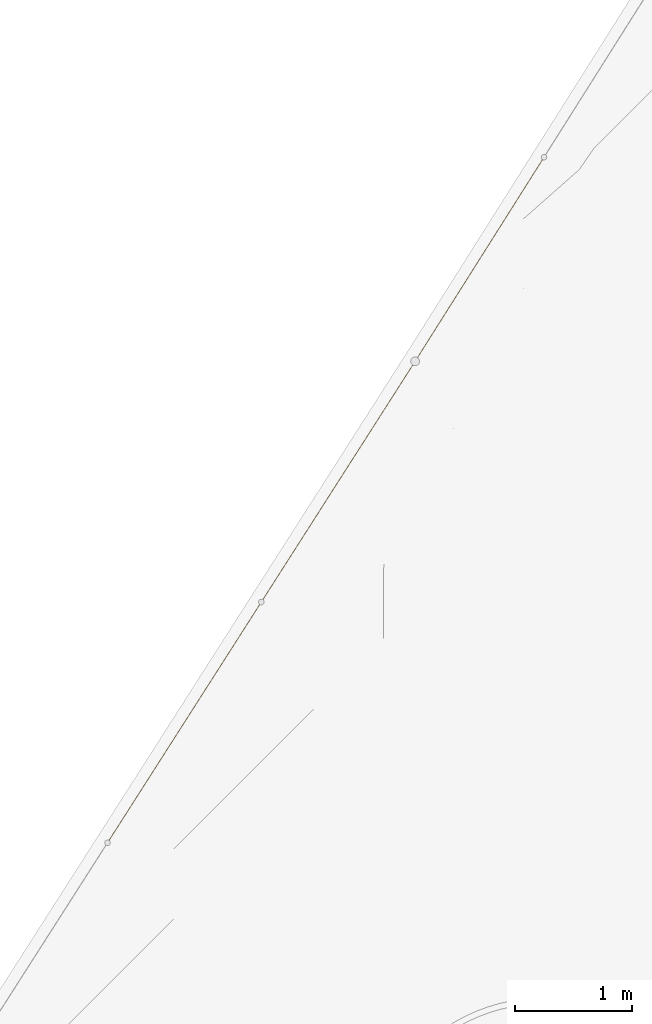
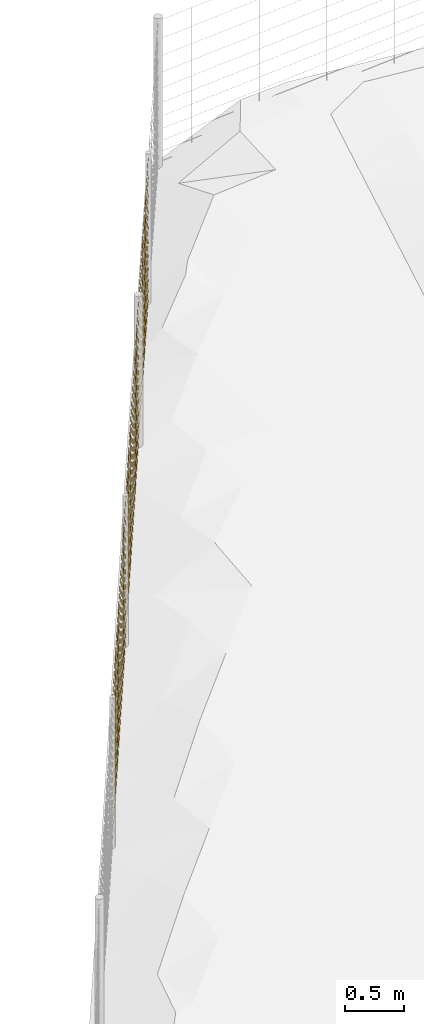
# Not in any storey, part 31 of 72: 3 railings.
"""IFC4 model written with IfcOpenShell, lengths in metres."""

from ifc_helpers import new_model, si_unit, direction, frame, origin_with_axes, place, context, subcontext, project, spatial, polygons, material, element, save


model = new_model("IFC4")

# Units and contexts
model_context = context("Model", 3, precision=1e-05, world=origin_with_axes(), true_north=direction((0.0, 1.0)))
body_context = subcontext(model_context, "Body", "Model", "MODEL_VIEW")
ifc_project = project(units=[si_unit("AREAUNIT", "SQUARE_METRE"), si_unit("VOLUMEUNIT", "CUBIC_METRE"), si_unit("LENGTHUNIT", "METRE")], contexts=[model_context])

# Site
site_placement = place(None, origin_with_axes())
site = spatial("IfcSite", under=ifc_project, at=site_placement, Name="Lares · Rua das Mercês · artigo 4771")

# Railings
ifc_material = material(Name="Aço galvanizado / Stahl verzinkt", Category="steel")
railing_1_placement = place(site_placement, frame((0.0, 0.0, 0.0), z_axis=(0.0, 0.0, 1.0), x_axis=(1.0, -1.03767253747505e-17, 0.0)))
element("IfcRailing", 1, at=railing_1_placement, inside=site, material=ifc_material, Name="Vedação · rede ovelheira 1.047", ObjectType="SHEEP_WIRE_FENCE", PredefinedType="USERDEFINED", context=body_context, shape_type="Tessellation", body=[
    polygons([(-4.26947059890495, 16.8943989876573, 12.0163853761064), (-4.27061633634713, 16.8953917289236, 12.0149015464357), (-4.27199861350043, 16.8960142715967, 12.0163853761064), (-4.27085287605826, 16.8950215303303, 12.0178692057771), (-2.95214813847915, 18.9560863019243, 12.3785673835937), (-2.95329387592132, 18.9570790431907, 12.377083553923), (-2.95467615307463, 18.9577015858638, 12.3785673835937), (-2.95353041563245, 18.9567088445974, 12.3800512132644), (-4.26947059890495, 16.8943989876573, 12.1163853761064), (-4.27061633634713, 16.8953917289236, 12.1149015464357), (-4.27199861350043, 16.8960142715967, 12.1163853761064), (-4.27085287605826, 16.8950215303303, 12.1178692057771), (-2.95214813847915, 18.9560863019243, 12.4785673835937), (-2.95329387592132, 18.9570790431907, 12.477083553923), (-2.95467615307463, 18.9577015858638, 12.4785673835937), (-2.95353041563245, 18.9567088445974, 12.4800512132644), (-4.26947059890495, 16.8943989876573, 12.2263853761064), (-4.27061633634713, 16.8953917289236, 12.2249015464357), (-4.27199861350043, 16.8960142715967, 12.2263853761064), (-4.27085287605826, 16.8950215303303, 12.2278692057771), (-2.95214813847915, 18.9560863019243, 12.5885673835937), (-2.95329387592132, 18.9570790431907, 12.587083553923), (-2.95467615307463, 18.9577015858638, 12.5885673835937), (-2.95353041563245, 18.9567088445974, 12.5900512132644), (-4.26947059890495, 16.8943989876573, 12.3463853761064), (-4.27061633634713, 16.8953917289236, 12.3449015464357), (-4.27199861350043, 16.8960142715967, 12.3463853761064), (-4.27085287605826, 16.8950215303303, 12.3478692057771), (-2.95214813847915, 18.9560863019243, 12.7085673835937), (-2.95329387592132, 18.9570790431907, 12.707083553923), (-2.95467615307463, 18.9577015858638, 12.7085673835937), (-2.95353041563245, 18.9567088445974, 12.7100512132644), (-4.26947059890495, 16.8943989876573, 12.4763853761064), (-4.27061633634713, 16.8953917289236, 12.4749015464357), (-4.27199861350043, 16.8960142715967, 12.4763853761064), (-4.27085287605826, 16.8950215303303, 12.4778692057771), (-2.95214813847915, 18.9560863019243, 12.8385673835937), (-2.95329387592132, 18.9570790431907, 12.837083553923), (-2.95467615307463, 18.9577015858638, 12.8385673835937), (-2.95353041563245, 18.9567088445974, 12.8400512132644), (-4.26947059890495, 16.8943989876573, 12.6163853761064), (-4.27061633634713, 16.8953917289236, 12.6149015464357), (-4.27199861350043, 16.8960142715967, 12.6163853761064), (-4.27085287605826, 16.8950215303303, 12.6178692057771), (-2.95214813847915, 18.9560863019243, 12.9785673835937), (-2.95329387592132, 18.9570790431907, 12.977083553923), (-2.95467615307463, 18.9577015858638, 12.9785673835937), (-2.95353041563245, 18.9567088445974, 12.9800512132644), (-4.26947059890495, 16.8943989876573, 12.7663853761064), (-4.27061633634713, 16.8953917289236, 12.7649015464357), (-4.27199861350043, 16.8960142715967, 12.7663853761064), (-4.27085287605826, 16.8950215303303, 12.7678692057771), (-2.95214813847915, 18.9560863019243, 13.1285673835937), (-2.95329387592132, 18.9570790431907, 13.127083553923), (-2.95467615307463, 18.9577015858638, 13.1285673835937), (-2.95353041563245, 18.9567088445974, 13.1300512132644), (-4.26947059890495, 16.8943989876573, 12.9263853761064), (-4.27061633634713, 16.8953917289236, 12.9249015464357), (-4.27199861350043, 16.8960142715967, 12.9263853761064), (-4.27085287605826, 16.8950215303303, 12.9278692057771), (-2.95214813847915, 18.9560863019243, 13.2885673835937), (-2.95329387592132, 18.9570790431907, 13.287083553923), (-2.95467615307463, 18.9577015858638, 13.2885673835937), (-2.95353041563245, 18.9567088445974, 13.2900512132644), (-4.26947059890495, 16.8943989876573, 13.0963853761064), (-4.27061633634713, 16.8953917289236, 13.0949015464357), (-4.27199861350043, 16.8960142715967, 13.0963853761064), (-4.27085287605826, 16.8950215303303, 13.0978692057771), (-2.95214813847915, 18.9560863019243, 13.4585673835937), (-2.95329387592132, 18.9570790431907, 13.457083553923), (-2.95467615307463, 18.9577015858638, 13.4585673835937), (-2.95353041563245, 18.9567088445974, 13.4600512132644), (-4.26947059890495, 16.8943989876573, 13.2763853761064), (-4.27061633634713, 16.8953917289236, 13.2749015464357), (-4.27199861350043, 16.8960142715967, 13.2763853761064), (-4.27085287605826, 16.8950215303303, 13.2778692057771), (-2.95214813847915, 18.9560863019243, 13.6385673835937), (-2.95329387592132, 18.9570790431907, 13.637083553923), (-2.95467615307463, 18.9577015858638, 13.6385673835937), (-2.95353041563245, 18.9567088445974, 13.6400512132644), (-4.26947059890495, 16.8943989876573, 13.4663853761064), (-4.27061633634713, 16.8953917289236, 13.4649015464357), (-4.27199861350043, 16.8960142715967, 13.4663853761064), (-4.27085287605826, 16.8950215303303, 13.4678692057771), (-2.95214813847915, 18.9560863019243, 13.8285673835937), (-2.95329387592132, 18.9570790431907, 13.827083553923), (-2.95467615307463, 18.9577015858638, 13.8285673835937), (-2.95353041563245, 18.9567088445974, 13.8300512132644), (-4.10920621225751, 17.1495080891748, 12.0607956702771), (-4.11070621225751, 17.1480080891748, 12.0607956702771), (-4.10920621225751, 17.1465080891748, 12.0607956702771), (-4.10770621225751, 17.1480080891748, 12.0607956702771), (-4.10920621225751, 17.1495080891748, 13.5107956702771), (-4.11070621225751, 17.1480080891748, 13.5107956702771), (-4.10920621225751, 17.1465080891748, 13.5107956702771), (-4.10770621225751, 17.1480080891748, 13.5107956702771), (-3.94767781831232, 17.4023095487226, 12.1052059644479), (-3.94917781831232, 17.4008095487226, 12.1052059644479), (-3.94767781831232, 17.3993095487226, 12.1052059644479), (-3.94617781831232, 17.4008095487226, 12.1052059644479), (-3.94767781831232, 17.4023095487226, 13.5552059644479), (-3.94917781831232, 17.4008095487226, 13.5552059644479), (-3.94767781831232, 17.3993095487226, 13.5552059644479), (-3.94617781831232, 17.4008095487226, 13.5552059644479), (-3.78614942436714, 17.6551110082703, 12.1496162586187), (-3.78764942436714, 17.6536110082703, 12.1496162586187), (-3.78614942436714, 17.6521110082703, 12.1496162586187), (-3.78464942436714, 17.6536110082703, 12.1496162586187), (-3.78614942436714, 17.6551110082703, 13.5996162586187), (-3.78764942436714, 17.6536110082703, 13.5996162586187), (-3.78614942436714, 17.6521110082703, 13.5996162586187), (-3.78464942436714, 17.6536110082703, 13.5996162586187), (-3.62462103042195, 17.9079124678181, 12.1940265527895), (-3.62612103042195, 17.9064124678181, 12.1940265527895), (-3.62462103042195, 17.9049124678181, 12.1940265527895), (-3.62312103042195, 17.9064124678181, 12.1940265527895), (-3.62462103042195, 17.9079124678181, 13.6440265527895), (-3.62612103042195, 17.9064124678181, 13.6440265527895), (-3.62462103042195, 17.9049124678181, 13.6440265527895), (-3.62312103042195, 17.9064124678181, 13.6440265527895), (-3.46309263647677, 18.1607139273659, 12.2384368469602), (-3.46459263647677, 18.1592139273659, 12.2384368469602), (-3.46309263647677, 18.1577139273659, 12.2384368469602), (-3.46159263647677, 18.1592139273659, 12.2384368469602), (-3.46309263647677, 18.1607139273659, 13.6884368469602), (-3.46459263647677, 18.1592139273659, 13.6884368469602), (-3.46309263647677, 18.1577139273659, 13.6884368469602), (-3.46159263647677, 18.1592139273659, 13.6884368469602), (-3.30156424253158, 18.4135153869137, 12.282847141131), (-3.30306424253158, 18.4120153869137, 12.282847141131), (-3.30156424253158, 18.4105153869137, 12.282847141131), (-3.30006424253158, 18.4120153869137, 12.282847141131), (-3.30156424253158, 18.4135153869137, 13.732847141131), (-3.30306424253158, 18.4120153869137, 13.732847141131), (-3.30156424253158, 18.4105153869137, 13.732847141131), (-3.30006424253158, 18.4120153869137, 13.732847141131), (-3.1400358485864, 18.6663168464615, 12.3272574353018), (-3.1415358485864, 18.6648168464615, 12.3272574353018), (-3.1400358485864, 18.6633168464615, 12.3272574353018), (-3.1385358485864, 18.6648168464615, 12.3272574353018), (-3.1400358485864, 18.6663168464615, 13.7772574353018), (-3.1415358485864, 18.6648168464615, 13.7772574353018), (-3.1400358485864, 18.6633168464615, 13.7772574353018), (-3.1385358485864, 18.6648168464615, 13.7772574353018)], [[[4, 3, 2, 1]], [[5, 6, 7, 8]], [[1, 2, 6, 5]], [[2, 3, 7, 6]], [[3, 4, 8, 7]], [[4, 1, 5, 8]], [[12, 11, 10, 9]], [[13, 14, 15, 16]], [[9, 10, 14, 13]], [[10, 11, 15, 14]], [[11, 12, 16, 15]], [[12, 9, 13, 16]], [[20, 19, 18, 17]], [[21, 22, 23, 24]], [[17, 18, 22, 21]], [[18, 19, 23, 22]], [[19, 20, 24, 23]], [[20, 17, 21, 24]], [[28, 27, 26, 25]], [[29, 30, 31, 32]], [[25, 26, 30, 29]], [[26, 27, 31, 30]], [[27, 28, 32, 31]], [[28, 25, 29, 32]], [[36, 35, 34, 33]], [[37, 38, 39, 40]], [[33, 34, 38, 37]], [[34, 35, 39, 38]], [[35, 36, 40, 39]], [[36, 33, 37, 40]], [[44, 43, 42, 41]], [[45, 46, 47, 48]], [[41, 42, 46, 45]], [[42, 43, 47, 46]], [[43, 44, 48, 47]], [[44, 41, 45, 48]], [[52, 51, 50, 49]], [[53, 54, 55, 56]], [[49, 50, 54, 53]], [[50, 51, 55, 54]], [[51, 52, 56, 55]], [[52, 49, 53, 56]], [[60, 59, 58, 57]], [[61, 62, 63, 64]], [[57, 58, 62, 61]], [[58, 59, 63, 62]], [[59, 60, 64, 63]], [[60, 57, 61, 64]], [[68, 67, 66, 65]], [[69, 70, 71, 72]], [[65, 66, 70, 69]], [[66, 67, 71, 70]], [[67, 68, 72, 71]], [[68, 65, 69, 72]], [[76, 75, 74, 73]], [[77, 78, 79, 80]], [[73, 74, 78, 77]], [[74, 75, 79, 78]], [[75, 76, 80, 79]], [[76, 73, 77, 80]], [[84, 83, 82, 81]], [[85, 86, 87, 88]], [[81, 82, 86, 85]], [[82, 83, 87, 86]], [[83, 84, 88, 87]], [[84, 81, 85, 88]], [[92, 91, 90, 89]], [[93, 94, 95, 96]], [[89, 90, 94, 93]], [[90, 91, 95, 94]], [[91, 92, 96, 95]], [[92, 89, 93, 96]], [[100, 99, 98, 97]], [[101, 102, 103, 104]], [[97, 98, 102, 101]], [[98, 99, 103, 102]], [[99, 100, 104, 103]], [[100, 97, 101, 104]], [[108, 107, 106, 105]], [[109, 110, 111, 112]], [[105, 106, 110, 109]], [[106, 107, 111, 110]], [[107, 108, 112, 111]], [[108, 105, 109, 112]], [[116, 115, 114, 113]], [[117, 118, 119, 120]], [[113, 114, 118, 117]], [[114, 115, 119, 118]], [[115, 116, 120, 119]], [[116, 113, 117, 120]], [[124, 123, 122, 121]], [[125, 126, 127, 128]], [[121, 122, 126, 125]], [[122, 123, 127, 126]], [[123, 124, 128, 127]], [[124, 121, 125, 128]], [[132, 131, 130, 129]], [[133, 134, 135, 136]], [[129, 130, 134, 133]], [[130, 131, 135, 134]], [[131, 132, 136, 135]], [[132, 129, 133, 136]], [[140, 139, 138, 137]], [[141, 142, 143, 144]], [[137, 138, 142, 141]], [[138, 139, 143, 142]], [[139, 140, 144, 143]], [[140, 137, 141, 144]]]),
])
railing_2_placement = place(site_placement, frame((0.0, 0.0, 0.0), z_axis=(0.0, 0.0, 1.0), x_axis=(1.0, -1.03767253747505e-17, 0.0)))
element("IfcRailing", 2, at=railing_2_placement, inside=site, material=ifc_material, Name="Vedação · rede ovelheira 1.048", ObjectType="SHEEP_WIRE_FENCE", PredefinedType="USERDEFINED", context=body_context, shape_type="Tessellation", body=[
    polygons([(-2.95214813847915, 18.9560863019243, 12.3785673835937), (-2.95329871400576, 18.9570714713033, 12.3770822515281), (-2.95467615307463, 18.9577015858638, 12.3785673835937), (-2.95352557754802, 18.9567164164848, 12.3800525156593), (-1.63482567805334, 21.0177736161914, 12.725628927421), (-1.63597625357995, 21.0187587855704, 12.7241437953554), (-1.63735369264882, 21.0193889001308, 12.725628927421), (-1.63620311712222, 21.0184037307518, 12.7271140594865), (-2.95214813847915, 18.9560863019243, 12.4785673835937), (-2.95329871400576, 18.9570714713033, 12.4770822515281), (-2.95467615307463, 18.9577015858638, 12.4785673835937), (-2.95352557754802, 18.9567164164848, 12.4800525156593), (-1.63482567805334, 21.0177736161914, 12.825628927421), (-1.63597625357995, 21.0187587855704, 12.8241437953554), (-1.63735369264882, 21.0193889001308, 12.825628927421), (-1.63620311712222, 21.0184037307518, 12.8271140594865), (-2.95214813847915, 18.9560863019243, 12.5885673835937), (-2.95329871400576, 18.9570714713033, 12.5870822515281), (-2.95467615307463, 18.9577015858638, 12.5885673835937), (-2.95352557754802, 18.9567164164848, 12.5900525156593), (-1.63482567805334, 21.0177736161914, 12.935628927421), (-1.63597625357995, 21.0187587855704, 12.9341437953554), (-1.63735369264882, 21.0193889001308, 12.935628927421), (-1.63620311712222, 21.0184037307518, 12.9371140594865), (-2.95214813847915, 18.9560863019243, 12.7085673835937), (-2.95329871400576, 18.9570714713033, 12.7070822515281), (-2.95467615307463, 18.9577015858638, 12.7085673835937), (-2.95352557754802, 18.9567164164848, 12.7100525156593), (-1.63482567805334, 21.0177736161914, 13.055628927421), (-1.63597625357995, 21.0187587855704, 13.0541437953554), (-1.63735369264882, 21.0193889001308, 13.055628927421), (-1.63620311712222, 21.0184037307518, 13.0571140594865), (-2.95214813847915, 18.9560863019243, 12.8385673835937), (-2.95329871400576, 18.9570714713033, 12.8370822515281), (-2.95467615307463, 18.9577015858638, 12.8385673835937), (-2.95352557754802, 18.9567164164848, 12.8400525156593), (-1.63482567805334, 21.0177736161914, 13.185628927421), (-1.63597625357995, 21.0187587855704, 13.1841437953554), (-1.63735369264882, 21.0193889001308, 13.185628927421), (-1.63620311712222, 21.0184037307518, 13.1871140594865), (-2.95214813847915, 18.9560863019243, 12.9785673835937), (-2.95329871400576, 18.9570714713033, 12.9770822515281), (-2.95467615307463, 18.9577015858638, 12.9785673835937), (-2.95352557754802, 18.9567164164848, 12.9800525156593), (-1.63482567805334, 21.0177736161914, 13.325628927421), (-1.63597625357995, 21.0187587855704, 13.3241437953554), (-1.63735369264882, 21.0193889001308, 13.325628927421), (-1.63620311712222, 21.0184037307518, 13.3271140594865), (-2.95214813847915, 18.9560863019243, 13.1285673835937), (-2.95329871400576, 18.9570714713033, 13.1270822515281), (-2.95467615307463, 18.9577015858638, 13.1285673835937), (-2.95352557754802, 18.9567164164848, 13.1300525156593), (-1.63482567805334, 21.0177736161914, 13.475628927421), (-1.63597625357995, 21.0187587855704, 13.4741437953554), (-1.63735369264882, 21.0193889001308, 13.475628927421), (-1.63620311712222, 21.0184037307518, 13.4771140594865), (-2.95214813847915, 18.9560863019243, 13.2885673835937), (-2.95329871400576, 18.9570714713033, 13.2870822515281), (-2.95467615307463, 18.9577015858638, 13.2885673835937), (-2.95352557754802, 18.9567164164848, 13.2900525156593), (-1.63482567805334, 21.0177736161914, 13.635628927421), (-1.63597625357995, 21.0187587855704, 13.6341437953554), (-1.63735369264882, 21.0193889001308, 13.635628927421), (-1.63620311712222, 21.0184037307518, 13.6371140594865), (-2.95214813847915, 18.9560863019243, 13.4585673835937), (-2.95329871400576, 18.9570714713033, 13.4570822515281), (-2.95467615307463, 18.9577015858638, 13.4585673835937), (-2.95352557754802, 18.9567164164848, 13.4600525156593), (-1.63482567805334, 21.0177736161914, 13.805628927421), (-1.63597625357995, 21.0187587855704, 13.8041437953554), (-1.63735369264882, 21.0193889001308, 13.805628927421), (-1.63620311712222, 21.0184037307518, 13.8071140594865), (-2.95214813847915, 18.9560863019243, 13.6385673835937), (-2.95329871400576, 18.9570714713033, 13.6370822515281), (-2.95467615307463, 18.9577015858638, 13.6385673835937), (-2.95352557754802, 18.9567164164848, 13.6400525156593), (-1.63482567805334, 21.0177736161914, 13.985628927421), (-1.63597625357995, 21.0187587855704, 13.9841437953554), (-1.63735369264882, 21.0193889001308, 13.985628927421), (-1.63620311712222, 21.0184037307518, 13.9871140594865), (-2.95214813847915, 18.9560863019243, 13.8285673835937), (-2.95329871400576, 18.9570714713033, 13.8270822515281), (-2.95467615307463, 18.9577015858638, 13.8285673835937), (-2.95352557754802, 18.9567164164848, 13.8300525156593), (-1.63482567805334, 21.0177736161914, 14.175628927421), (-1.63597625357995, 21.0187587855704, 14.1741437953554), (-1.63735369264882, 21.0193889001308, 14.175628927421), (-1.63620311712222, 21.0184037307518, 14.1771140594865), (-2.7918837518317, 19.2111954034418, 12.4211236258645), (-2.7933837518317, 19.2096954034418, 12.4211236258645), (-2.7918837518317, 19.2081954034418, 12.4211236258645), (-2.7903837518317, 19.2096954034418, 12.4211236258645), (-2.7918837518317, 19.2111954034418, 13.8711236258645), (-2.7933837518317, 19.2096954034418, 13.8711236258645), (-2.7918837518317, 19.2081954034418, 13.8711236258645), (-2.7903837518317, 19.2096954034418, 13.8711236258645), (-2.63035535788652, 19.4639968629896, 12.4636798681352), (-2.63185535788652, 19.4624968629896, 12.4636798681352), (-2.63035535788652, 19.4609968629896, 12.4636798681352), (-2.62885535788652, 19.4624968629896, 12.4636798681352), (-2.63035535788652, 19.4639968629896, 13.9136798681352), (-2.63185535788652, 19.4624968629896, 13.9136798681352), (-2.63035535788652, 19.4609968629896, 13.9136798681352), (-2.62885535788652, 19.4624968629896, 13.9136798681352), (-2.46882696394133, 19.7167983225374, 12.5062361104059), (-2.47032696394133, 19.7152983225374, 12.5062361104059), (-2.46882696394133, 19.7137983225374, 12.5062361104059), (-2.46732696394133, 19.7152983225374, 12.5062361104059), (-2.46882696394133, 19.7167983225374, 13.9562361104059), (-2.47032696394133, 19.7152983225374, 13.9562361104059), (-2.46882696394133, 19.7137983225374, 13.9562361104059), (-2.46732696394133, 19.7152983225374, 13.9562361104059), (-2.30729856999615, 19.9695997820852, 12.5487923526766), (-2.30879856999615, 19.9680997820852, 12.5487923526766), (-2.30729856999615, 19.9665997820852, 12.5487923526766), (-2.30579856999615, 19.9680997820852, 12.5487923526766), (-2.30729856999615, 19.9695997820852, 13.9987923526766), (-2.30879856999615, 19.9680997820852, 13.9987923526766), (-2.30729856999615, 19.9665997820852, 13.9987923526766), (-2.30579856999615, 19.9680997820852, 13.9987923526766), (-2.14577017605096, 20.222401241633, 12.5913485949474), (-2.14727017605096, 20.220901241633, 12.5913485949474), (-2.14577017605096, 20.219401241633, 12.5913485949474), (-2.14427017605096, 20.220901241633, 12.5913485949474), (-2.14577017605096, 20.222401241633, 14.0413485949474), (-2.14727017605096, 20.220901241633, 14.0413485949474), (-2.14577017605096, 20.219401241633, 14.0413485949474), (-2.14427017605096, 20.220901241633, 14.0413485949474), (-1.98424178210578, 20.4752027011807, 12.6339048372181), (-1.98574178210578, 20.4737027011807, 12.6339048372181), (-1.98424178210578, 20.4722027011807, 12.6339048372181), (-1.98274178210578, 20.4737027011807, 12.6339048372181), (-1.98424178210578, 20.4752027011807, 14.0839048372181), (-1.98574178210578, 20.4737027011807, 14.0839048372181), (-1.98424178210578, 20.4722027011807, 14.0839048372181), (-1.98274178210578, 20.4737027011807, 14.0839048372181), (-1.82271338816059, 20.7280041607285, 12.6764610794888), (-1.82421338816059, 20.7265041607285, 12.6764610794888), (-1.82271338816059, 20.7250041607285, 12.6764610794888), (-1.82121338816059, 20.7265041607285, 12.6764610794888), (-1.82271338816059, 20.7280041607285, 14.1264610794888), (-1.82421338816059, 20.7265041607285, 14.1264610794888), (-1.82271338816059, 20.7250041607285, 14.1264610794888), (-1.82121338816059, 20.7265041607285, 14.1264610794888)], [[[4, 3, 2, 1]], [[5, 6, 7, 8]], [[1, 2, 6, 5]], [[2, 3, 7, 6]], [[3, 4, 8, 7]], [[4, 1, 5, 8]], [[12, 11, 10, 9]], [[13, 14, 15, 16]], [[9, 10, 14, 13]], [[10, 11, 15, 14]], [[11, 12, 16, 15]], [[12, 9, 13, 16]], [[20, 19, 18, 17]], [[21, 22, 23, 24]], [[17, 18, 22, 21]], [[18, 19, 23, 22]], [[19, 20, 24, 23]], [[20, 17, 21, 24]], [[28, 27, 26, 25]], [[29, 30, 31, 32]], [[25, 26, 30, 29]], [[26, 27, 31, 30]], [[27, 28, 32, 31]], [[28, 25, 29, 32]], [[36, 35, 34, 33]], [[37, 38, 39, 40]], [[33, 34, 38, 37]], [[34, 35, 39, 38]], [[35, 36, 40, 39]], [[36, 33, 37, 40]], [[44, 43, 42, 41]], [[45, 46, 47, 48]], [[41, 42, 46, 45]], [[42, 43, 47, 46]], [[43, 44, 48, 47]], [[44, 41, 45, 48]], [[52, 51, 50, 49]], [[53, 54, 55, 56]], [[49, 50, 54, 53]], [[50, 51, 55, 54]], [[51, 52, 56, 55]], [[52, 49, 53, 56]], [[60, 59, 58, 57]], [[61, 62, 63, 64]], [[57, 58, 62, 61]], [[58, 59, 63, 62]], [[59, 60, 64, 63]], [[60, 57, 61, 64]], [[68, 67, 66, 65]], [[69, 70, 71, 72]], [[65, 66, 70, 69]], [[66, 67, 71, 70]], [[67, 68, 72, 71]], [[68, 65, 69, 72]], [[76, 75, 74, 73]], [[77, 78, 79, 80]], [[73, 74, 78, 77]], [[74, 75, 79, 78]], [[75, 76, 80, 79]], [[76, 73, 77, 80]], [[84, 83, 82, 81]], [[85, 86, 87, 88]], [[81, 82, 86, 85]], [[82, 83, 87, 86]], [[83, 84, 88, 87]], [[84, 81, 85, 88]], [[92, 91, 90, 89]], [[93, 94, 95, 96]], [[89, 90, 94, 93]], [[90, 91, 95, 94]], [[91, 92, 96, 95]], [[92, 89, 93, 96]], [[100, 99, 98, 97]], [[101, 102, 103, 104]], [[97, 98, 102, 101]], [[98, 99, 103, 102]], [[99, 100, 104, 103]], [[100, 97, 101, 104]], [[108, 107, 106, 105]], [[109, 110, 111, 112]], [[105, 106, 110, 109]], [[106, 107, 111, 110]], [[107, 108, 112, 111]], [[108, 105, 109, 112]], [[116, 115, 114, 113]], [[117, 118, 119, 120]], [[113, 114, 118, 117]], [[114, 115, 119, 118]], [[115, 116, 120, 119]], [[116, 113, 117, 120]], [[124, 123, 122, 121]], [[125, 126, 127, 128]], [[121, 122, 126, 125]], [[122, 123, 127, 126]], [[123, 124, 128, 127]], [[124, 121, 125, 128]], [[132, 131, 130, 129]], [[133, 134, 135, 136]], [[129, 130, 134, 133]], [[130, 131, 135, 134]], [[131, 132, 136, 135]], [[132, 129, 133, 136]], [[140, 139, 138, 137]], [[141, 142, 143, 144]], [[137, 138, 142, 141]], [[138, 139, 143, 142]], [[139, 140, 144, 143]], [[140, 137, 141, 144]]]),
])
railing_3_placement = place(site_placement, frame((0.0, 0.0, 0.0), z_axis=(0.0, 0.0, 1.0), x_axis=(1.0, -1.03767253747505e-17, 0.0)))
element("IfcRailing", 3, at=railing_3_placement, inside=site, material=ifc_material, Name="Vedação · rede ovelheira 1.049", ObjectType="SHEEP_WIRE_FENCE", PredefinedType="USERDEFINED", context=body_context, shape_type="Tessellation", body=[
    polygons([(-1.63482140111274, 21.0177803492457, 12.725628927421), (-1.63608595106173, 21.018587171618, 12.7241289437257), (-1.63735796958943, 21.0193821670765, 12.725628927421), (-1.63609341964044, 21.0185753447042, 12.7271289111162), (-0.531027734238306, 22.7656995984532, 12.7352677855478), (-0.532292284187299, 22.7665064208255, 12.7337678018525), (-0.533564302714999, 22.767301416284, 12.7352677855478), (-0.532299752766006, 22.7664945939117, 12.7367677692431), (-1.63482140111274, 21.0177803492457, 12.825628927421), (-1.63608595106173, 21.018587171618, 12.8241289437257), (-1.63735796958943, 21.0193821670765, 12.825628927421), (-1.63609341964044, 21.0185753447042, 12.8271289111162), (-0.531027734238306, 22.7656995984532, 12.8352677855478), (-0.532292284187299, 22.7665064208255, 12.8337678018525), (-0.533564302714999, 22.767301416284, 12.8352677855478), (-0.532299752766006, 22.7664945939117, 12.8367677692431), (-1.63482140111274, 21.0177803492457, 12.935628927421), (-1.63608595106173, 21.018587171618, 12.9341289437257), (-1.63735796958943, 21.0193821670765, 12.935628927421), (-1.63609341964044, 21.0185753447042, 12.9371289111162), (-0.531027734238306, 22.7656995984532, 12.9452677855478), (-0.532292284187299, 22.7665064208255, 12.9437678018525), (-0.533564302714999, 22.767301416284, 12.9452677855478), (-0.532299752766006, 22.7664945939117, 12.9467677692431), (-1.63482140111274, 21.0177803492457, 13.055628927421), (-1.63608595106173, 21.018587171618, 13.0541289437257), (-1.63735796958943, 21.0193821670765, 13.055628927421), (-1.63609341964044, 21.0185753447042, 13.0571289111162), (-0.531027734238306, 22.7656995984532, 13.0652677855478), (-0.532292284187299, 22.7665064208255, 13.0637678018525), (-0.533564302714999, 22.767301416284, 13.0652677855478), (-0.532299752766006, 22.7664945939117, 13.0667677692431), (-1.63482140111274, 21.0177803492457, 13.185628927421), (-1.63608595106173, 21.018587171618, 13.1841289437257), (-1.63735796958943, 21.0193821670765, 13.185628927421), (-1.63609341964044, 21.0185753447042, 13.1871289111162), (-0.531027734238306, 22.7656995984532, 13.1952677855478), (-0.532292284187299, 22.7665064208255, 13.1937678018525), (-0.533564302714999, 22.767301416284, 13.1952677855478), (-0.532299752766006, 22.7664945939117, 13.1967677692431), (-1.63482140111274, 21.0177803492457, 13.325628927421), (-1.63608595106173, 21.018587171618, 13.3241289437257), (-1.63735796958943, 21.0193821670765, 13.325628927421), (-1.63609341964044, 21.0185753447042, 13.3271289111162), (-0.531027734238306, 22.7656995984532, 13.3352677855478), (-0.532292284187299, 22.7665064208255, 13.3337678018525), (-0.533564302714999, 22.767301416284, 13.3352677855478), (-0.532299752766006, 22.7664945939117, 13.3367677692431), (-1.63482140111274, 21.0177803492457, 13.475628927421), (-1.63608595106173, 21.018587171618, 13.4741289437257), (-1.63735796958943, 21.0193821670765, 13.475628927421), (-1.63609341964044, 21.0185753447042, 13.4771289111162), (-0.531027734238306, 22.7656995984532, 13.4852677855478), (-0.532292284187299, 22.7665064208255, 13.4837678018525), (-0.533564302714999, 22.767301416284, 13.4852677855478), (-0.532299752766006, 22.7664945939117, 13.4867677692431), (-1.63482140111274, 21.0177803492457, 13.635628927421), (-1.63608595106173, 21.018587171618, 13.6341289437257), (-1.63735796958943, 21.0193821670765, 13.635628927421), (-1.63609341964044, 21.0185753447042, 13.6371289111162), (-0.531027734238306, 22.7656995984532, 13.6452677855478), (-0.532292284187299, 22.7665064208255, 13.6437678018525), (-0.533564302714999, 22.767301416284, 13.6452677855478), (-0.532299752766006, 22.7664945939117, 13.6467677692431), (-1.63482140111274, 21.0177803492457, 13.805628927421), (-1.63608595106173, 21.018587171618, 13.8041289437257), (-1.63735796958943, 21.0193821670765, 13.805628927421), (-1.63609341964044, 21.0185753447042, 13.8071289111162), (-0.531027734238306, 22.7656995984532, 13.8152677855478), (-0.532292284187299, 22.7665064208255, 13.8137678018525), (-0.533564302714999, 22.767301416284, 13.8152677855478), (-0.532299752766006, 22.7664945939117, 13.8167677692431), (-1.63482140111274, 21.0177803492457, 13.985628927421), (-1.63608595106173, 21.018587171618, 13.9841289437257), (-1.63735796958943, 21.0193821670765, 13.985628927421), (-1.63609341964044, 21.0185753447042, 13.9871289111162), (-0.531027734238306, 22.7656995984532, 13.9952677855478), (-0.532292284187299, 22.7665064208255, 13.9937678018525), (-0.533564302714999, 22.767301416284, 13.9952677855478), (-0.532299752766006, 22.7664945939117, 13.9967677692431), (-1.63482140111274, 21.0177803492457, 14.175628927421), (-1.63608595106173, 21.018587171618, 14.1741289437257), (-1.63735796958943, 21.0193821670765, 14.175628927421), (-1.63609341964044, 21.0185753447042, 14.1771289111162), (-0.531027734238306, 22.7656995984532, 14.1852677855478), (-0.532292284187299, 22.7665064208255, 14.1837678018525), (-0.533564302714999, 22.767301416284, 14.1852677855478), (-0.532299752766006, 22.7664945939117, 14.1867677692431), (-1.47590790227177, 21.2737381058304, 12.7270277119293), (-1.47740790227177, 21.2722381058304, 12.7270277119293), (-1.47590790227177, 21.2707381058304, 12.7270277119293), (-1.47440790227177, 21.2722381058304, 12.7270277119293), (-1.47590790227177, 21.2737381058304, 14.1770277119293), (-1.47740790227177, 21.2722381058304, 14.1770277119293), (-1.47590790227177, 21.2707381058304, 14.1770277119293), (-1.47440790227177, 21.2722381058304, 14.1770277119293), (-1.31572611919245, 21.5273949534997, 12.7284264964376), (-1.31722611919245, 21.5258949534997, 12.7284264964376), (-1.31572611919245, 21.5243949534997, 12.7284264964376), (-1.31422611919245, 21.5258949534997, 12.7284264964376), (-1.31572611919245, 21.5273949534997, 14.1784264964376), (-1.31722611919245, 21.5258949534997, 14.1784264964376), (-1.31572611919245, 21.5243949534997, 14.1784264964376), (-1.31422611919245, 21.5258949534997, 14.1784264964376), (-1.15554433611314, 21.781051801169, 12.7298252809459), (-1.15704433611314, 21.779551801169, 12.7298252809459), (-1.15554433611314, 21.778051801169, 12.7298252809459), (-1.15404433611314, 21.779551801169, 12.7298252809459), (-1.15554433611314, 21.781051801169, 14.1798252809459), (-1.15704433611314, 21.779551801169, 14.1798252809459), (-1.15554433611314, 21.778051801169, 14.1798252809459), (-1.15404433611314, 21.779551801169, 14.1798252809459), (-0.995362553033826, 22.0347086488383, 12.7312240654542), (-0.996862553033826, 22.0332086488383, 12.7312240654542), (-0.995362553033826, 22.0317086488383, 12.7312240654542), (-0.993862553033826, 22.0332086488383, 12.7312240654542), (-0.995362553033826, 22.0347086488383, 14.1812240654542), (-0.996862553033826, 22.0332086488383, 14.1812240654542), (-0.995362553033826, 22.0317086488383, 14.1812240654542), (-0.993862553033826, 22.0332086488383, 14.1812240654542), (-0.835180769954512, 22.2883654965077, 12.7326228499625), (-0.836680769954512, 22.2868654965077, 12.7326228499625), (-0.835180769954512, 22.2853654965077, 12.7326228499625), (-0.833680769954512, 22.2868654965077, 12.7326228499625), (-0.835180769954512, 22.2883654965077, 14.1826228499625), (-0.836680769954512, 22.2868654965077, 14.1826228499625), (-0.835180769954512, 22.2853654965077, 14.1826228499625), (-0.833680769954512, 22.2868654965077, 14.1826228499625), (-0.674998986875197, 22.542022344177, 12.7340216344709), (-0.676498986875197, 22.540522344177, 12.7340216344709), (-0.674998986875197, 22.539022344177, 12.7340216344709), (-0.673498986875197, 22.540522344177, 12.7340216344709), (-0.674998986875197, 22.542022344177, 14.1840216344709), (-0.676498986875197, 22.540522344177, 14.1840216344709), (-0.674998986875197, 22.539022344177, 14.1840216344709), (-0.673498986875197, 22.540522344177, 14.1840216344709)], [[[4, 3, 2, 1]], [[5, 6, 7, 8]], [[1, 2, 6, 5]], [[2, 3, 7, 6]], [[3, 4, 8, 7]], [[4, 1, 5, 8]], [[12, 11, 10, 9]], [[13, 14, 15, 16]], [[9, 10, 14, 13]], [[10, 11, 15, 14]], [[11, 12, 16, 15]], [[12, 9, 13, 16]], [[20, 19, 18, 17]], [[21, 22, 23, 24]], [[17, 18, 22, 21]], [[18, 19, 23, 22]], [[19, 20, 24, 23]], [[20, 17, 21, 24]], [[28, 27, 26, 25]], [[29, 30, 31, 32]], [[25, 26, 30, 29]], [[26, 27, 31, 30]], [[27, 28, 32, 31]], [[28, 25, 29, 32]], [[36, 35, 34, 33]], [[37, 38, 39, 40]], [[33, 34, 38, 37]], [[34, 35, 39, 38]], [[35, 36, 40, 39]], [[36, 33, 37, 40]], [[44, 43, 42, 41]], [[45, 46, 47, 48]], [[41, 42, 46, 45]], [[42, 43, 47, 46]], [[43, 44, 48, 47]], [[44, 41, 45, 48]], [[52, 51, 50, 49]], [[53, 54, 55, 56]], [[49, 50, 54, 53]], [[50, 51, 55, 54]], [[51, 52, 56, 55]], [[52, 49, 53, 56]], [[60, 59, 58, 57]], [[61, 62, 63, 64]], [[57, 58, 62, 61]], [[58, 59, 63, 62]], [[59, 60, 64, 63]], [[60, 57, 61, 64]], [[68, 67, 66, 65]], [[69, 70, 71, 72]], [[65, 66, 70, 69]], [[66, 67, 71, 70]], [[67, 68, 72, 71]], [[68, 65, 69, 72]], [[76, 75, 74, 73]], [[77, 78, 79, 80]], [[73, 74, 78, 77]], [[74, 75, 79, 78]], [[75, 76, 80, 79]], [[76, 73, 77, 80]], [[84, 83, 82, 81]], [[85, 86, 87, 88]], [[81, 82, 86, 85]], [[82, 83, 87, 86]], [[83, 84, 88, 87]], [[84, 81, 85, 88]], [[92, 91, 90, 89]], [[93, 94, 95, 96]], [[89, 90, 94, 93]], [[90, 91, 95, 94]], [[91, 92, 96, 95]], [[92, 89, 93, 96]], [[100, 99, 98, 97]], [[101, 102, 103, 104]], [[97, 98, 102, 101]], [[98, 99, 103, 102]], [[99, 100, 104, 103]], [[100, 97, 101, 104]], [[108, 107, 106, 105]], [[109, 110, 111, 112]], [[105, 106, 110, 109]], [[106, 107, 111, 110]], [[107, 108, 112, 111]], [[108, 105, 109, 112]], [[116, 115, 114, 113]], [[117, 118, 119, 120]], [[113, 114, 118, 117]], [[114, 115, 119, 118]], [[115, 116, 120, 119]], [[116, 113, 117, 120]], [[124, 123, 122, 121]], [[125, 126, 127, 128]], [[121, 122, 126, 125]], [[122, 123, 127, 126]], [[123, 124, 128, 127]], [[124, 121, 125, 128]], [[132, 131, 130, 129]], [[133, 134, 135, 136]], [[129, 130, 134, 133]], [[130, 131, 135, 134]], [[131, 132, 136, 135]], [[132, 129, 133, 136]]]),
])

save(model, "model.ifc")
